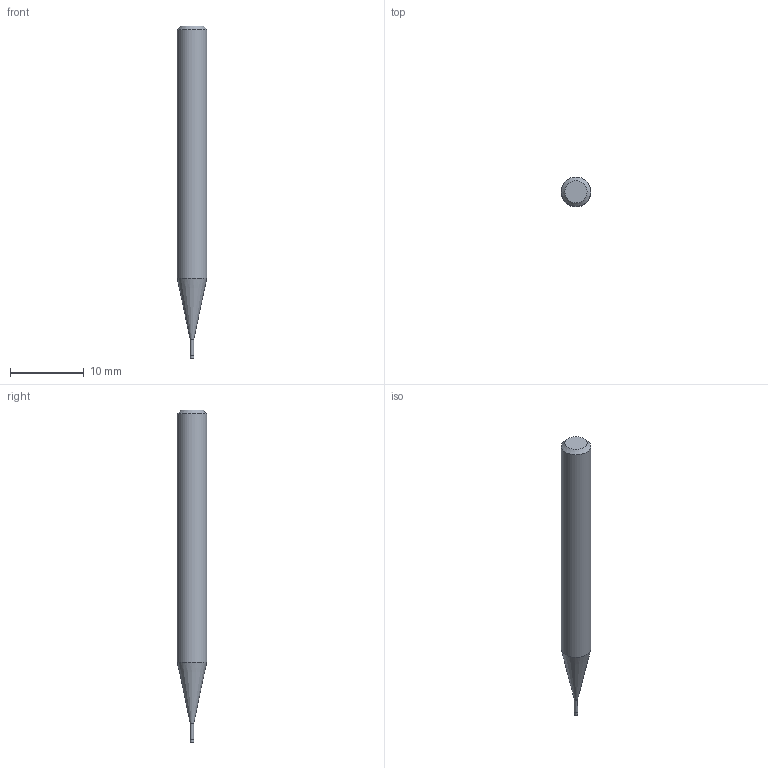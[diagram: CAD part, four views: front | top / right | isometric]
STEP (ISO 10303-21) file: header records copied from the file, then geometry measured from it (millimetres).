
FILE_DESCRIPTION((''),'2;1');
FILE_NAME('C:\Users\nsx150\AppData\Local\Temp\Mastercam 2021\RJ5U8K7RMU\TEMP.step','2021-04-21T16:40:04',(''),(''),'STEP Write','Mastercam 2021 ... CNC Software, Inc.','');
FILE_SCHEMA(('AUTOMOTIVE_DESIGN'));
Length unit declared in the file: millimetre
Products named in the file (1): None
Bounding box: 4 x 4 x 45 mm (x, y, z)
Volume: 467.8 mm3; surface area: 501.9 mm2
Topology: 2 solids, 2 shells, 9 faces, 12 edges, 7 vertices
Faces by surface type: plane 4, cylinder 3, cone 2
Full cylindrical faces by diameter (mm): 0.46 x1, 0.5 x1, 4 x1
Entity records: 211 total; most frequent: DIRECTION 36, CARTESIAN_POINT 25, AXIS2_PLACEMENT_3D 18, ORIENTED_EDGE 14, EDGE_LOOP 14, STYLED_ITEM 12, ADVANCED_FACE 9, FACE_BOUND 8
